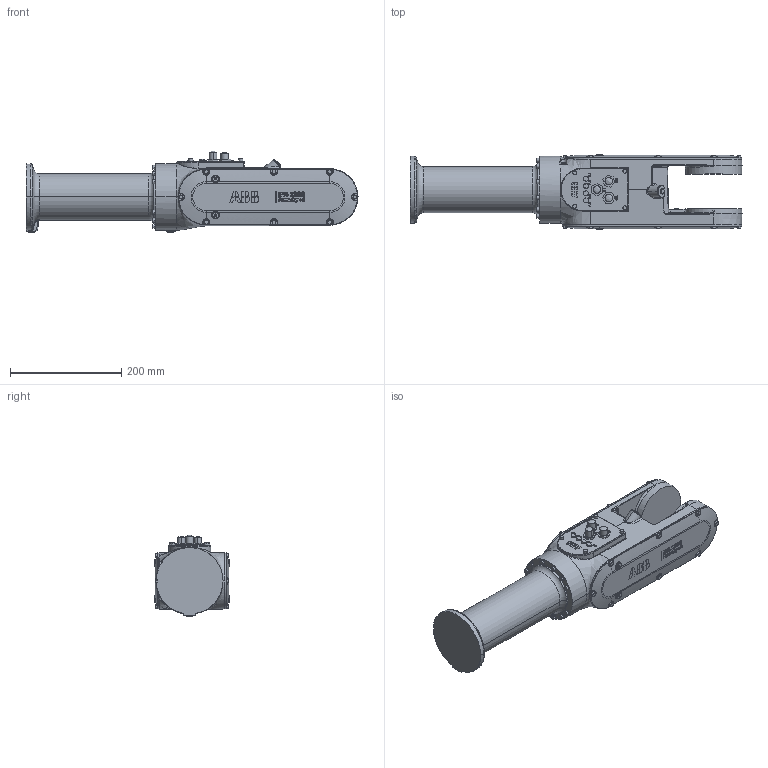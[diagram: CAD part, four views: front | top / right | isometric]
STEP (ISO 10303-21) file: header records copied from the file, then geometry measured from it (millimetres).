
FILE_DESCRIPTION (( 'STEP AP214' ), '1' );
FILE_NAME ('IRB1300 Type A_7&12Kg-1400-Foundry-BTM_OC_00_link4.STEP', '2026-05-19T12:06:16', ( '' ), ( '' ), 'SwSTEP 2.0', 'SolidWorks 2024', '' );
FILE_SCHEMA (( 'AUTOMOTIVE_DESIGN' ));
Length unit declared in the file: millimetre
Products named in the file (1): IRB1300 Type A_7&12Kg-1400-Foundry-BTM_OC_00_link4
Bounding box: 596.36 x 134.5 x 145.73 mm (x, y, z)
Volume: 5109008 mm3; surface area: 272830.1 mm2
Topology: 1 solids, 3 shells, 1898 faces, 4771 edges, 3027 vertices
Faces by surface type: plane 755, bspline 664, cylinder 282, cone 77, torus 77, sphere 43
Entity records: 86297 total; most frequent: CARTESIAN_POINT 45641, ORIENTED_EDGE 9490, DIRECTION 6225, EDGE_CURVE 4745, VERTEX_POINT 3027, LINE 2109, VECTOR 2109, EDGE_LOOP 2072
